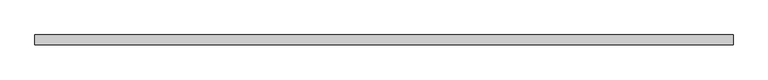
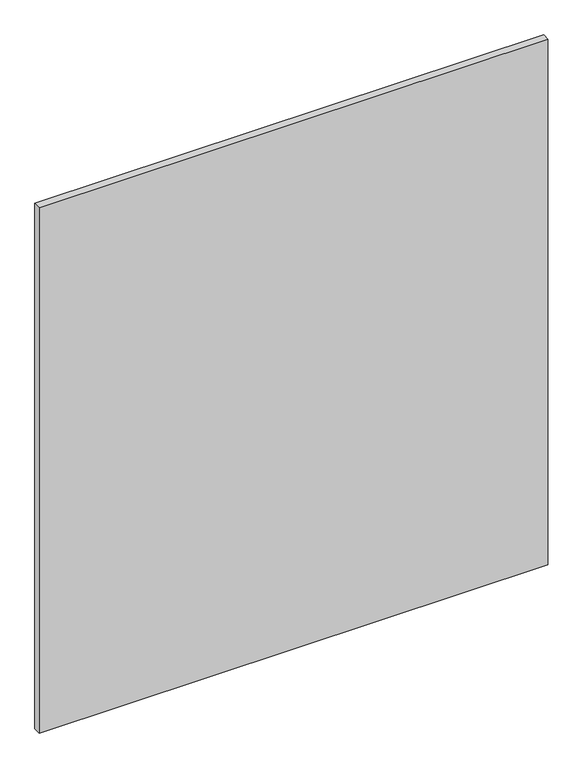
"""IFC4 building model written with IfcOpenShell, lengths in millimetres: plate geometry, Vitré."""

from ifc_helpers import new_model, si_unit, origin, origin_with_axes, place, context, project, spatial, polyline, outline, extrude, source, transform, mapped, element, save


def plate_a6239270(model_context):
    return source(origin(), model_context, "Body", "SweptSolid", [
        extrude(outline(polyline([(-1395.65625, -20.0), (-1395.65625, 20.0), (1395.65625, 20.0), (1395.65625, -20.0), (-1395.65625, -20.0)])), origin_with_axes(), (0.0, 0.0, 1.0), 3047.625),
    ])


if __name__ == "__main__":
    model = new_model("IFC4")
    model_context = context("Model", 3, world=origin())
    ifc_project = project(units=[si_unit("LENGTHUNIT", "METRE", prefix="MILLI")], contexts=[model_context])
    site = spatial("IfcSite", under=ifc_project)
    building = spatial("IfcBuilding", under=site)
    placement = place(None, origin())
    plate_shape = plate_a6239270(model_context)
    element("IfcPlate", 1, ObjectType="Vitré", at=placement, inside=building, context=model_context, shape_type="MappedRepresentation", body=[
        mapped(plate_shape, transform((0.0, 0.0, 0.0), x_axis=(1.0, 0.0, 0.0), y_axis=(0.0, 1.0, 0.0), z_axis=(0.0, 0.0, 1.0))),
    ])
    save(model, "model.ifc")
